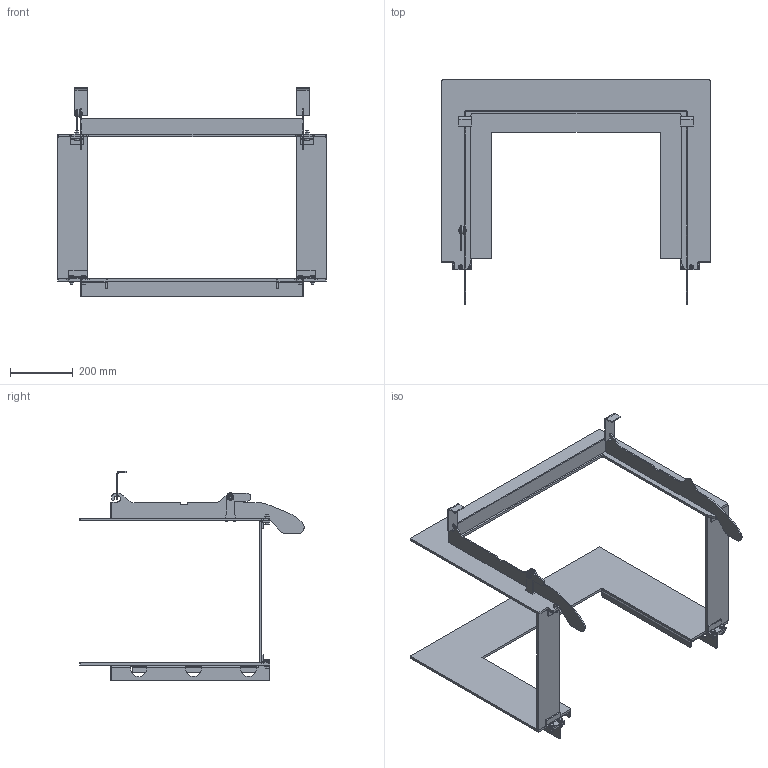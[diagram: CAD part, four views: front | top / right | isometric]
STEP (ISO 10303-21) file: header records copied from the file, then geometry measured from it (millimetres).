
FILE_DESCRIPTION(/* description */ ('','CAx-IF Rec.Pracs.---Representation and Presentation of Product Manufacturing Information (PMI)---3.8---2014-02-18'),/* implementation_level */ '2;1');
FILE_NAME(/* name */ 'C:\ADSK_DM_WS\CAD_3D\03 Geraete\RIII 45x68x46\Zeichnungen\RIII 45x68x46 Einbaurahmen geschraubt.stp',/* time_stamp */ '2018-06-06T15:51:41+02:00',/* author */ ('cpi'),/* organization */ (''),/* preprocessor_version */ 'ST-DEVELOPER v16.1',/* originating_system */ 'Autodesk Inventor 2016',/* authorisation */ '');
FILE_SCHEMA (('AP242_MANAGED_MODEL_BASED_3D_ENGINEERING_MIM_LF { 1 0 10303 442 1 1 4 }'));
Length unit declared in the file: centimetre
Products named in the file (1): 2018-01268
Bounding box: 855 x 715.25 x 668 mm (x, y, z)
Surface area: 1614533.1 mm2
Topology: 2 solids, 4 shells, 722 faces, 1907 edges, 1196 vertices
Faces by surface type: plane 401, cylinder 248, cone 61, bspline 12
Full cylindrical faces by diameter (mm): 4 x1, 5.88 x1, 8 x8, 10 x1, 10.21 x2, 11.63 x6, 16 x7, 20 x2, 25 x2
Entity records: 22514 total; most frequent: CARTESIAN_POINT 4301, ORIENTED_EDGE 3706, DIRECTION 3671, EDGE_CURVE 1846, AXIS2_PLACEMENT_3D 1278, VERTEX_POINT 1184, LINE 1115, VECTOR 1115
